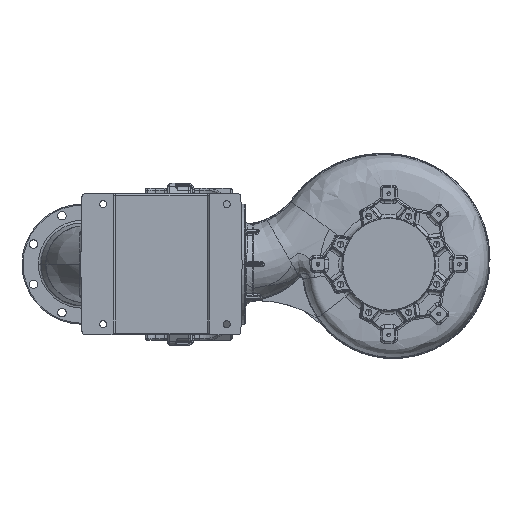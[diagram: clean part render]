
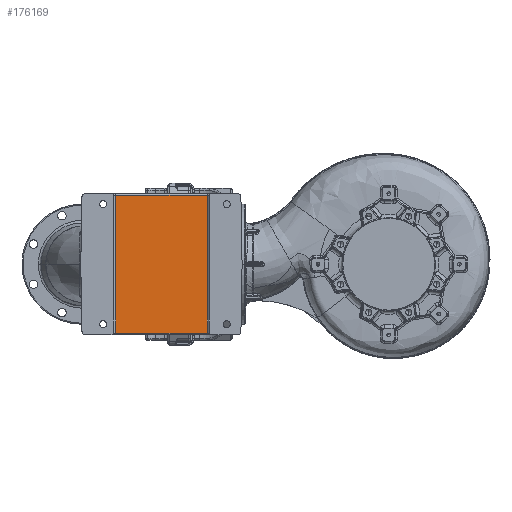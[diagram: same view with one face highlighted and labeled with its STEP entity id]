
A CAD part, front view. The second image highlights one B-rep face of the part: STEP entity #176169.
In plain terms, the highlighted planar face has unit normal (0, -1, 0).
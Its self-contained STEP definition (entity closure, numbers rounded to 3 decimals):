
#15100 = CARTESIAN_POINT ( 'NONE',  ( -774., -753.702, -195. ) ) ;
#19459 = CARTESIAN_POINT ( 'NONE',  ( -774., -753.702, 195. ) ) ;
#36558 = EDGE_CURVE ( 'NONE', #168893, #226026, #151850, .T. ) ;
#44097 = VECTOR ( 'NONE', #176028, 1000. ) ;
#47441 = CARTESIAN_POINT ( 'NONE',  ( -514., -753.702, 200. ) ) ;
#80701 = CARTESIAN_POINT ( 'NONE',  ( -509., -753.702, -195. ) ) ;
#83941 = ORIENTED_EDGE ( 'NONE', *, *, #255242, .T. ) ;
#87363 = LINE ( 'NONE', #47441, #144923 ) ;
#88148 = VECTOR ( 'NONE', #102476, 1000. ) ;
#94141 = EDGE_LOOP ( 'NONE', ( #83941, #146694, #200032, #268148 ) ) ;
#94293 = VECTOR ( 'NONE', #164879, 1000. ) ;
#102476 = DIRECTION ( 'NONE',  ( 1., 0., 0. ) ) ;
#114460 = CARTESIAN_POINT ( 'NONE',  ( -774., -753.702, -200. ) ) ;
#123986 = DIRECTION ( 'NONE',  ( 0., 1., 0. ) ) ;
#126648 = AXIS2_PLACEMENT_3D ( 'NONE', #253520, #123986, #275328 ) ;
#144923 = VECTOR ( 'NONE', #200962, 1000. ) ;
#146694 = ORIENTED_EDGE ( 'NONE', *, *, #156114, .T. ) ;
#151850 = LINE ( 'NONE', #207539, #94293 ) ;
#152035 = EDGE_CURVE ( 'NONE', #226026, #203726, #210277, .T. ) ;
#156114 = EDGE_CURVE ( 'NONE', #215546, #168893, #87363, .T. ) ;
#164879 = DIRECTION ( 'NONE',  ( -1., 0., 0. ) ) ;
#168893 = VERTEX_POINT ( 'NONE', #209812 ) ;
#176028 = DIRECTION ( 'NONE',  ( 0., 0., -1. ) ) ;
#176169 = ADVANCED_FACE ( 'NONE', ( #176929 ), #252592, .F. ) ;
#176929 = FACE_OUTER_BOUND ( 'NONE', #94141, .T. ) ;
#200032 = ORIENTED_EDGE ( 'NONE', *, *, #36558, .T. ) ;
#200962 = DIRECTION ( 'NONE',  ( 0., 0., 1. ) ) ;
#203726 = VERTEX_POINT ( 'NONE', #15100 ) ;
#207539 = CARTESIAN_POINT ( 'NONE',  ( -779., -753.702, 195. ) ) ;
#209812 = CARTESIAN_POINT ( 'NONE',  ( -514., -753.702, 195. ) ) ;
#210277 = LINE ( 'NONE', #114460, #44097 ) ;
#215546 = VERTEX_POINT ( 'NONE', #262191 ) ;
#226026 = VERTEX_POINT ( 'NONE', #19459 ) ;
#252592 = PLANE ( 'NONE',  #126648 ) ;
#253520 = CARTESIAN_POINT ( 'NONE',  ( -779., -753.702, -230. ) ) ;
#255242 = EDGE_CURVE ( 'NONE', #203726, #215546, #260821, .T. ) ;
#260821 = LINE ( 'NONE', #80701, #88148 ) ;
#262191 = CARTESIAN_POINT ( 'NONE',  ( -514., -753.702, -195. ) ) ;
#268148 = ORIENTED_EDGE ( 'NONE', *, *, #152035, .T. ) ;
#275328 = DIRECTION ( 'NONE',  ( 0., 0., 1. ) ) ;
